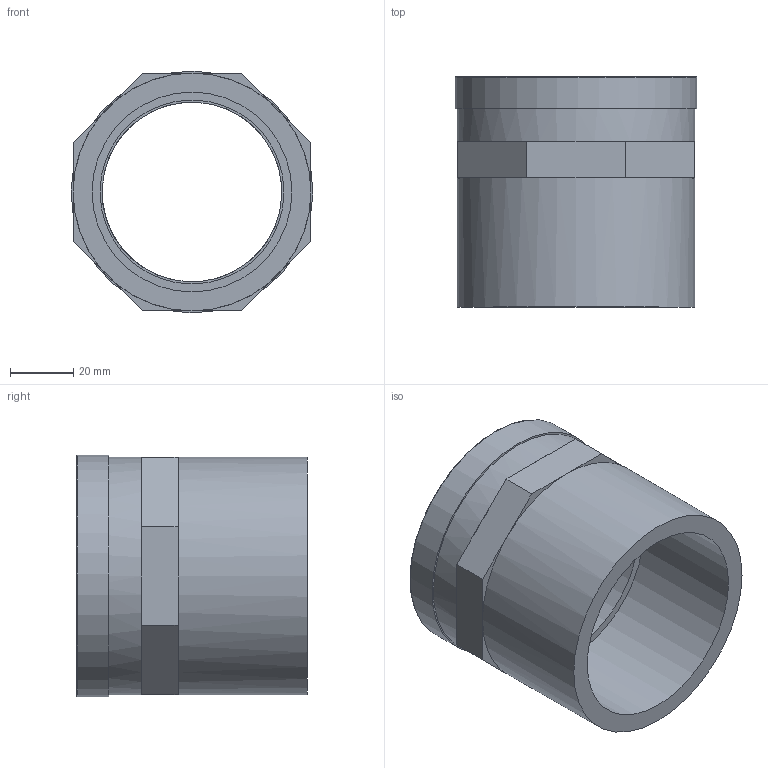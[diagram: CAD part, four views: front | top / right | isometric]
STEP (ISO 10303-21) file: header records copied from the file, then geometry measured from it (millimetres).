
FILE_DESCRIPTION(/* description */ (''),/* implementation_level */ '2;1');
FILE_NAME(/* name */ 'C:\Users\POLYPIPE\Desktop\DATASET INVENTOR\LIBRERIA EFFAST\RACCORDI 3DxWEB\RGR\3D_RGRMAR\3D_RGRMAR063G.stp',/* time_stamp */ '2018-01-19T17:52:52+01:00',/* author */ ('POLYPIPE'),/* organization */ (''),/* preprocessor_version */ 'ST-DEVELOPER v16.1',/* originating_system */ 'Autodesk Inventor 2016',/* authorisation */ '');
FILE_SCHEMA (('CONFIG_CONTROL_DESIGN'));
Length unit declared in the file: centimetre
Products named in the file (1): 3D_RGRMAR063G
Bounding box: 76.19 x 72.6 x 76.19 mm (x, y, z)
Volume: 114602.1 mm3; surface area: 38721.1 mm2
Topology: 1 solids, 1 shells, 44 faces, 93 edges, 55 vertices
Faces by surface type: plane 31, cylinder 7, bspline 5, torus 1
Full cylindrical faces by diameter (mm): 56.656 x1, 58 x1, 63 x2, 75 x2, 76.2 x1
Entity records: 5242 total; most frequent: CARTESIAN_POINT 4261, DIRECTION 185, ORIENTED_EDGE 170, EDGE_CURVE 85, AXIS2_PLACEMENT_3D 71, EDGE_LOOP 57, VERTEX_POINT 54, STYLED_ITEM 45
